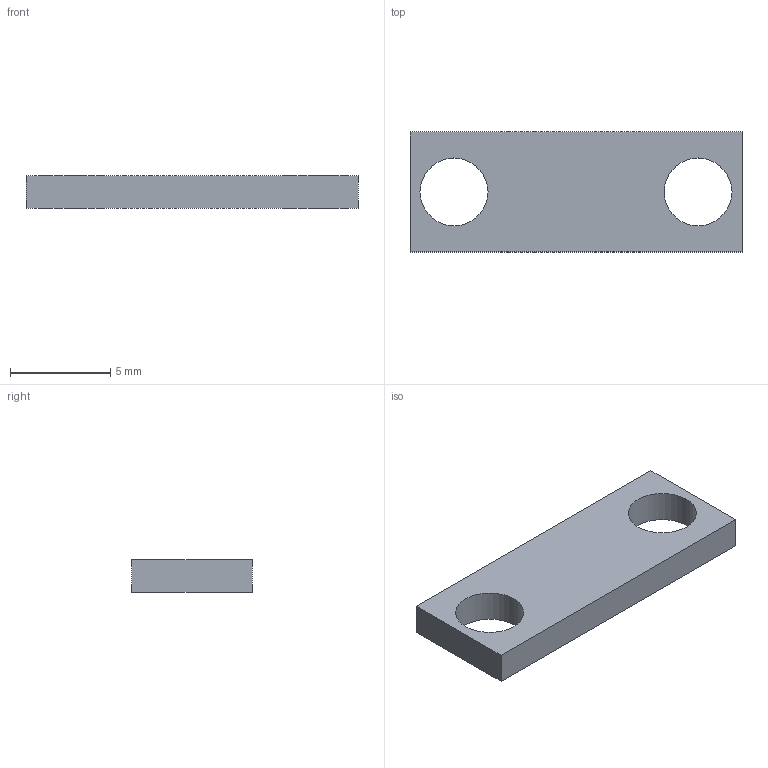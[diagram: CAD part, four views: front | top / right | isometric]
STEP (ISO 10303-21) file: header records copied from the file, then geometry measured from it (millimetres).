
FILE_DESCRIPTION(('FreeCAD Model'),'2;1');
FILE_NAME('Open CASCADE Shape Model','2026-11-20T08:25:39',('FreeCAD'),( 'FreeCAD'),'Open CASCADE STEP processor 7.8','FreeCAD','Unknown');
FILE_SCHEMA(('AUTOMOTIVE_DESIGN { 1 0 10303 214 1 1 1 1 }'));
Length unit declared in the file: millimetre
Products named in the file (1): Open CASCADE STEP translator 7.8 76
Bounding box: 16.6 x 6 x 1.6 mm (x, y, z)
Volume: 130.3 mm3; surface area: 269.4 mm2
Topology: 1 solids, 1 shells, 8 faces, 18 edges, 12 vertices
Faces by surface type: plane 6, cylinder 2
Full cylindrical faces by diameter (mm): 3.4 x2
Entity records: 244 total; most frequent: DIRECTION 40, CARTESIAN_POINT 39, ORIENTED_EDGE 36, EDGE_CURVE 18, LINE 14, VECTOR 14, AXIS2_PLACEMENT_3D 13, FACE_BOUND 12
